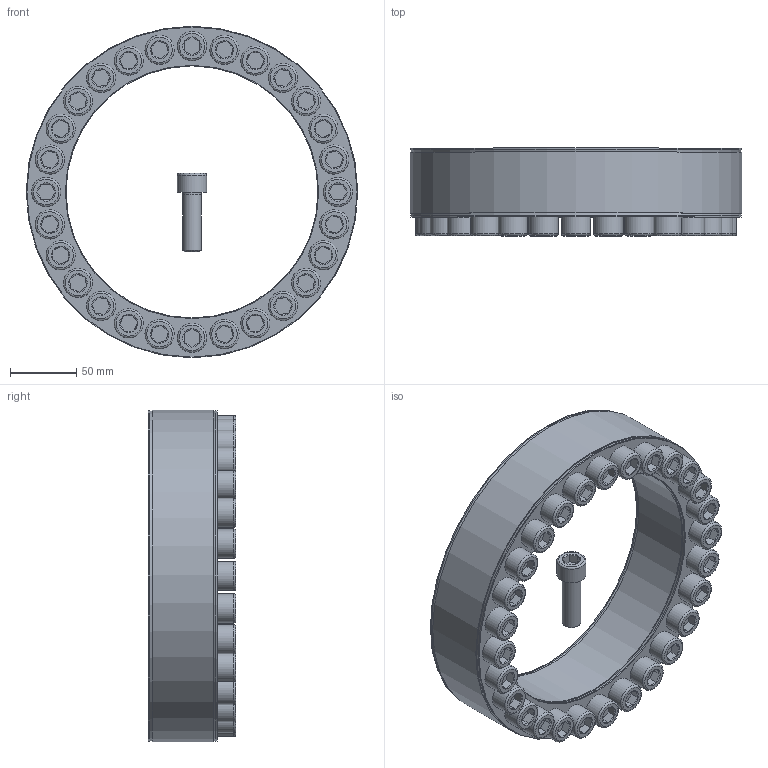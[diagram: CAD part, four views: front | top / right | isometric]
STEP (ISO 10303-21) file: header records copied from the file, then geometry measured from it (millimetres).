
FILE_DESCRIPTION( ( 'Unknown' ), '1' );
FILE_NAME( 'C:/Dokumente und Einstellungen/Sven/Desktop/homepage/cad - homepage/KBS40/KBS 40 - 190 x 250.stp', 'Unknown', ( 'Unknown' ), ( 'Unknown' ), 'XStep 1.0', 'Unknown', ' ' );
FILE_SCHEMA( ( 'automotive_design' ) );
Length unit declared in the file: millimetre
Products named in the file (30): Assem1; KBS 40 190x250; ISO 4762 M14x45; ISO 4762 M14x45-oa0; ISO 4762 M14x45-oa1; ISO 4762 M14x45-oa2; ISO 4762 M14x45-oa3; ISO 4762 M14x45-oa4; ISO 4762 M14x45-oa5; ISO 4762 M14x45-oa6; ISO 4762 M14x45-oa7; ISO 4762 M14x45-oa8; ISO 4762 M14x45-oa9; ISO 4762 M14x45-oa10; ISO 4762 M14x45-oa11; ISO 4762 M14x45-oa12; ISO 4762 M14x45-oa13; ISO 4762 M14x45-oa14; ISO 4762 M14x45-oa15; ISO 4762 M14x45-oa16; ISO 4762 M14x45-oa17; ISO 4762 M14x45-oa18; ISO 4762 M14x45-oa19; ISO 4762 M14x45-oa20; ISO 4762 M14x45-oa21; ISO 4762 M14x45-oa22; ISO 4762 M14x45-oa23; ISO 4762 M14x45-oa24; ISO 4762 M14x45-oa25; ISO 4762 M14x45-oa26
Bounding box: 249.99 x 66 x 249.98 mm (x, y, z)
Volume: 2330246.5 mm3; surface area: 564317.8 mm2
Topology: 58 solids, 58 shells, 1516 faces, 2772 edges, 1596 vertices
Faces by surface type: plane 712, cone 400, cylinder 292, torus 112
Full cylindrical faces by diameter (mm): 12 x56, 14 x168, 22 x56, 191 x4, 249 x4
Entity records: 18691 total; most frequent: CARTESIAN_POINT 4248, DIRECTION 3056, ORIENTED_EDGE 2192, AXIS2_PLACEMENT_3D 1340, EDGE_LOOP 1160, EDGE_CURVE 1096, FACE_OUTER_BOUND 958, ADVANCED_FACE 758
